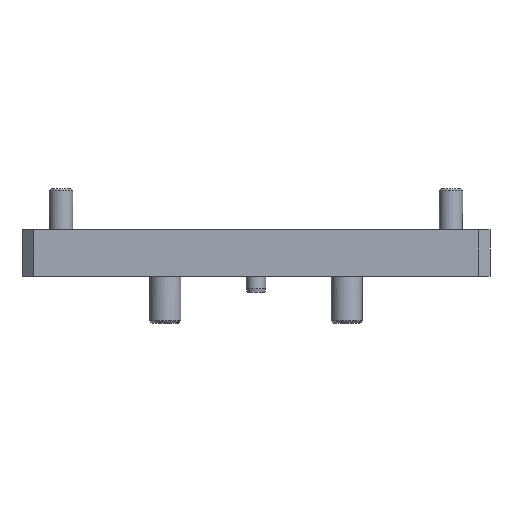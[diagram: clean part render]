
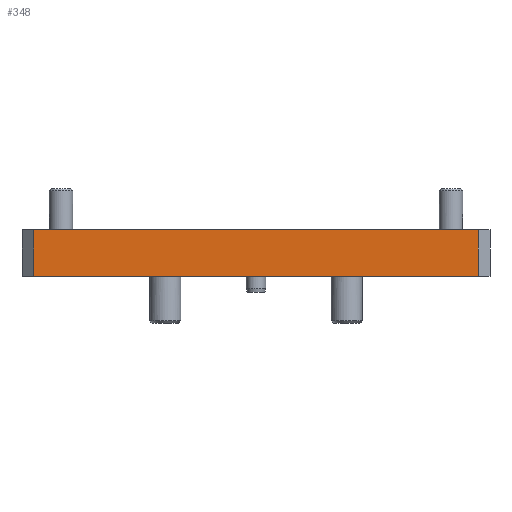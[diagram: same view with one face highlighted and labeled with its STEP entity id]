
A CAD part, left-side view. The second image highlights one B-rep face of the part: STEP entity #348.
In plain terms, the highlighted planar face has unit normal (-1, 0, 0).
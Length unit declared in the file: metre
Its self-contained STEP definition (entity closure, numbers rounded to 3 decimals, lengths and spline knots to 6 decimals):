
#348 = ADVANCED_FACE( '', ( #828 ), #829, .T. );
#828 = FACE_OUTER_BOUND( '', #1513, .T. );
#829 = PLANE( '', #1514 );
#1513 = EDGE_LOOP( '', ( #2474, #2475, #2476, #2477 ) );
#1514 = AXIS2_PLACEMENT_3D( '', #2478, #2479, #2480 );
#2474 = ORIENTED_EDGE( '', *, *, #3371, .F. );
#2475 = ORIENTED_EDGE( '', *, *, #3372, .T. );
#2476 = ORIENTED_EDGE( '', *, *, #3107, .T. );
#2477 = ORIENTED_EDGE( '', *, *, #3183, .T. );
#2478 = CARTESIAN_POINT( '', ( -0.06, -0.06, 0.012 ) );
#2479 = DIRECTION( '', ( -1., 0., 0. ) );
#2480 = DIRECTION( '', ( 0., -1., 0. ) );
#3107 = EDGE_CURVE( '', #3557, #3558, #3559, .T. );
#3183 = EDGE_CURVE( '', #3558, #3687, #3689, .T. );
#3371 = EDGE_CURVE( '', #3976, #3687, #3977, .T. );
#3372 = EDGE_CURVE( '', #3976, #3557, #3978, .T. );
#3557 = VERTEX_POINT( '', #4203 );
#3558 = VERTEX_POINT( '', #4204 );
#3559 = LINE( '', #4205, #4206 );
#3687 = VERTEX_POINT( '', #4410 );
#3689 = LINE( '', #4413, #4414 );
#3976 = VERTEX_POINT( '', #4913 );
#3977 = LINE( '', #4914, #4915 );
#3978 = LINE( '', #4916, #4917 );
#4203 = CARTESIAN_POINT( '', ( -0.06, -0.057, 0.012 ) );
#4204 = CARTESIAN_POINT( '', ( -0.06, 0.057, 0.012 ) );
#4205 = CARTESIAN_POINT( '', ( -0.06, -0.06, 0.012 ) );
#4206 = VECTOR( '', #5292, 1. );
#4410 = CARTESIAN_POINT( '', ( -0.06, 0.057, 0. ) );
#4413 = CARTESIAN_POINT( '', ( -0.06, 0.057, 0.012 ) );
#4414 = VECTOR( '', #5376, 1. );
#4913 = CARTESIAN_POINT( '', ( -0.06, -0.057, 0. ) );
#4914 = CARTESIAN_POINT( '', ( -0.06, -0.06, 0. ) );
#4915 = VECTOR( '', #5574, 1. );
#4916 = CARTESIAN_POINT( '', ( -0.06, -0.057, 0.012 ) );
#4917 = VECTOR( '', #5575, 1. );
#5292 = DIRECTION( '', ( 0., 1., 0. ) );
#5376 = DIRECTION( '', ( 0., 0., -1. ) );
#5574 = DIRECTION( '', ( 0., 1., 0. ) );
#5575 = DIRECTION( '', ( 0., 0., 1. ) );
